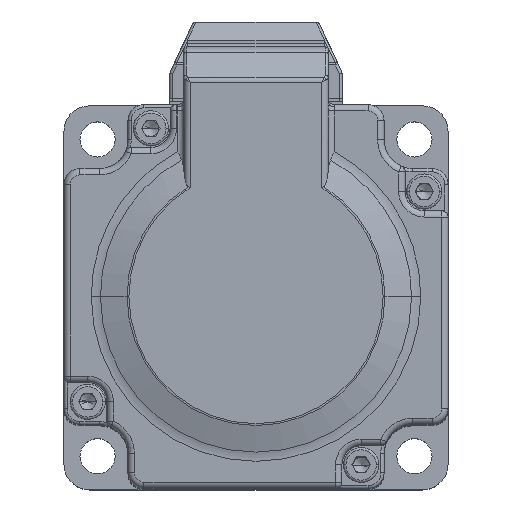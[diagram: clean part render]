
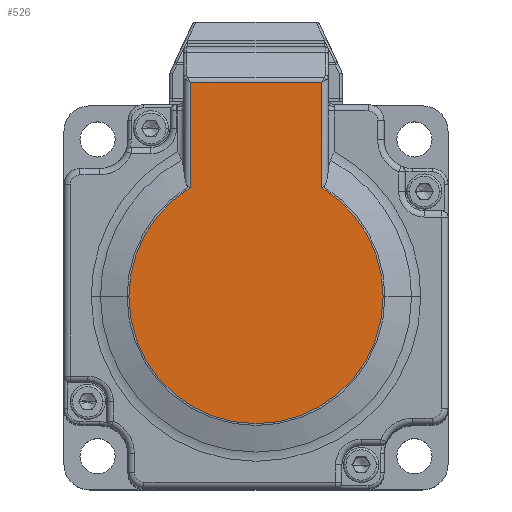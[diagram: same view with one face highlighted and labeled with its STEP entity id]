
A CAD part, top view. The second image highlights one B-rep face of the part: STEP entity #526.
In plain terms, the highlighted planar face has unit normal (0, 0, 1).
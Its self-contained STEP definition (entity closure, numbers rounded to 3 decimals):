
#105 = DIRECTION ( 'NONE',  ( -1., 0., 0. ) ) ;
#408 = CARTESIAN_POINT ( 'NONE',  ( 10.3, 33.9, 128.7 ) ) ;
#526 = ADVANCED_FACE ( 'NONE', ( #33520 ), #16223, .T. ) ;
#1220 = DIRECTION ( 'NONE',  ( 1., 0., 0. ) ) ;
#3256 = CARTESIAN_POINT ( 'NONE',  ( -11.3, 33.486, 128.7 ) ) ;
#4297 = CARTESIAN_POINT ( 'NONE',  ( 0., 0., 128.7 ) ) ;
#4390 = DIRECTION ( 'NONE',  ( 0., 0., 1. ) ) ;
#6382 = ORIENTED_EDGE ( 'NONE', *, *, #12691, .T. ) ;
#6585 = EDGE_CURVE ( 'NONE', #11592, #25751, #22674, .T. ) ;
#9793 = CIRCLE ( 'NONE', #31598, 19.853 ) ;
#11592 = VERTEX_POINT ( 'NONE', #34571 ) ;
#12183 = CARTESIAN_POINT ( 'NONE',  ( 10.3, 16.972, 128.7 ) ) ;
#12691 = EDGE_CURVE ( 'NONE', #37122, #17428, #31134, .T. ) ;
#13091 = DIRECTION ( 'NONE',  ( 1., 0., 0. ) ) ;
#13676 = ORIENTED_EDGE ( 'NONE', *, *, #36337, .T. ) ;
#14331 = DIRECTION ( 'NONE',  ( 0., 0., 1. ) ) ;
#14963 = CARTESIAN_POINT ( 'NONE',  ( -19.853, 0., 128.7 ) ) ;
#16223 = PLANE ( 'NONE',  #23074 ) ;
#16943 = AXIS2_PLACEMENT_3D ( 'NONE', #17581, #14331, #20151 ) ;
#16979 = EDGE_CURVE ( 'NONE', #17428, #11592, #21923, .T. ) ;
#17428 = VERTEX_POINT ( 'NONE', #30222 ) ;
#17581 = CARTESIAN_POINT ( 'NONE',  ( 0., 0., 128.7 ) ) ;
#18163 = ORIENTED_EDGE ( 'NONE', *, *, #6585, .T. ) ;
#18199 = DIRECTION ( 'NONE',  ( 0., 0., 1. ) ) ;
#18563 = CARTESIAN_POINT ( 'NONE',  ( 0., 0., 128.7 ) ) ;
#19110 = CARTESIAN_POINT ( 'NONE',  ( -10.3, 16.502, 128.7 ) ) ;
#19846 = AXIS2_PLACEMENT_3D ( 'NONE', #18563, #18199, #1220 ) ;
#20151 = DIRECTION ( 'NONE',  ( 1., 0., 0. ) ) ;
#21923 = LINE ( 'NONE', #3256, #24172 ) ;
#22121 = EDGE_LOOP ( 'NONE', ( #33751, #18163, #33195, #22826, #13676, #6382 ) ) ;
#22307 = EDGE_CURVE ( 'NONE', #26972, #30535, #36132, .T. ) ;
#22674 = LINE ( 'NONE', #19110, #32593 ) ;
#22826 = ORIENTED_EDGE ( 'NONE', *, *, #22307, .T. ) ;
#23074 = AXIS2_PLACEMENT_3D ( 'NONE', #30291, #4390, #13091 ) ;
#23462 = VECTOR ( 'NONE', #32068, 1000. ) ;
#24172 = VECTOR ( 'NONE', #105, 1000. ) ;
#25751 = VERTEX_POINT ( 'NONE', #27569 ) ;
#26972 = VERTEX_POINT ( 'NONE', #14963 ) ;
#27569 = CARTESIAN_POINT ( 'NONE',  ( -10.3, 16.972, 128.7 ) ) ;
#27909 = CARTESIAN_POINT ( 'NONE',  ( 19.853, 0., 128.7 ) ) ;
#30222 = CARTESIAN_POINT ( 'NONE',  ( 10.3, 33.486, 128.7 ) ) ;
#30291 = CARTESIAN_POINT ( 'NONE',  ( 0., 0., 128.7 ) ) ;
#30316 = DIRECTION ( 'NONE',  ( 1., 0., 0. ) ) ;
#30535 = VERTEX_POINT ( 'NONE', #27909 ) ;
#31134 = LINE ( 'NONE', #408, #23462 ) ;
#31467 = CIRCLE ( 'NONE', #16943, 19.853 ) ;
#31598 = AXIS2_PLACEMENT_3D ( 'NONE', #4297, #33108, #30316 ) ;
#32068 = DIRECTION ( 'NONE',  ( 0., 1., 0. ) ) ;
#32593 = VECTOR ( 'NONE', #36358, 1000. ) ;
#33108 = DIRECTION ( 'NONE',  ( 0., 0., 1. ) ) ;
#33158 = EDGE_CURVE ( 'NONE', #25751, #26972, #31467, .T. ) ;
#33195 = ORIENTED_EDGE ( 'NONE', *, *, #33158, .T. ) ;
#33520 = FACE_OUTER_BOUND ( 'NONE', #22121, .T. ) ;
#33751 = ORIENTED_EDGE ( 'NONE', *, *, #16979, .T. ) ;
#34571 = CARTESIAN_POINT ( 'NONE',  ( -10.3, 33.486, 128.7 ) ) ;
#36132 = CIRCLE ( 'NONE', #19846, 19.853 ) ;
#36337 = EDGE_CURVE ( 'NONE', #30535, #37122, #9793, .T. ) ;
#36358 = DIRECTION ( 'NONE',  ( 0., -1., 0. ) ) ;
#37122 = VERTEX_POINT ( 'NONE', #12183 ) ;
